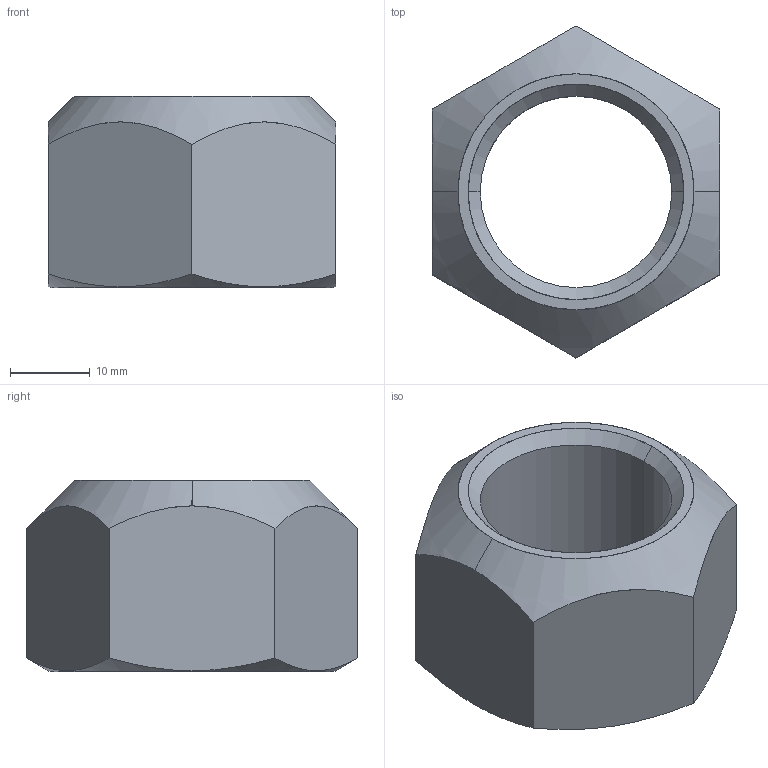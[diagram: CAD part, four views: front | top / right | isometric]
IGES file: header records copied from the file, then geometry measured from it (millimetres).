
Start section: SolidWorks IGES file using analytic representation for surfaces
Global section: file name: C:\Users\liam_\OneDrive\Documents\WORK\Work for WixRoyd\Job Files\J-00021 - Matt Davis CAD Checking\04. CAD Drawings\automotion20190729\P0308.ZP_v2\P0308.ZP_v2_20190913_IGES\P0308.240-ZP.igs; native system: SolidWorks 2017; preprocessor: SolidWorks 2017; author: liam_; date: 190913.214502; units: millimetre
Bounding box: 36 x 41.57 x 24 mm (x, y, z)
Surface area: 5611.8 mm2 (no closed solid volume)
Topology: 0 solids, 0 shells, 18 faces, 444 edges, 444 vertices
Faces by surface type: revolution 10, bspline 8
